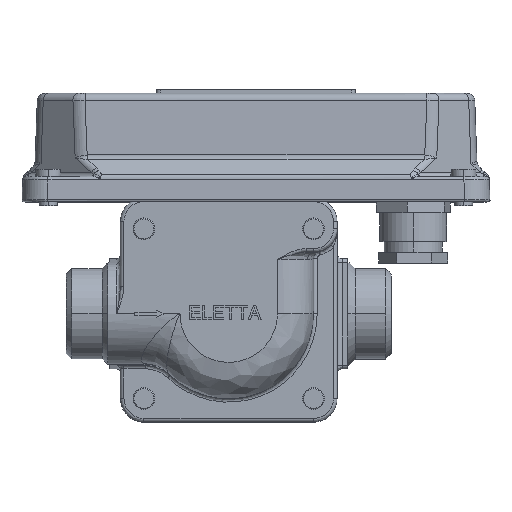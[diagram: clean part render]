
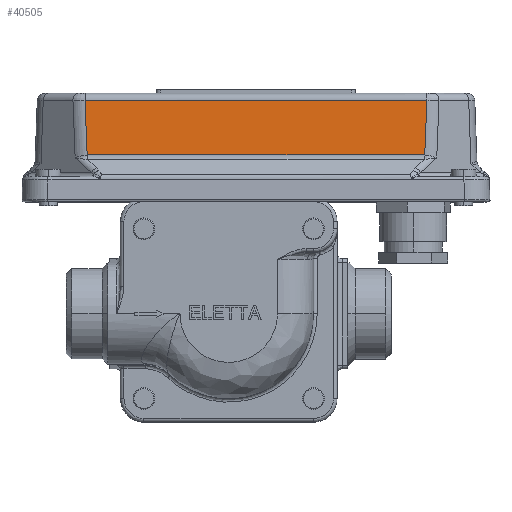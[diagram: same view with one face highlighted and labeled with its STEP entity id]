
A CAD part, top view. The second image highlights one B-rep face of the part: STEP entity #40505.
In plain terms, the highlighted planar face has unit normal (-0.001, 0.035, 0.999) as drawn and (0, 0.035, -0.999) by its records, which use the part's own axes.
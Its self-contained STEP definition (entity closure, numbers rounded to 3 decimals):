
#952 = VERTEX_POINT ( 'NONE', #22584 ) ;
#2907 = CARTESIAN_POINT ( 'NONE',  ( 54.903, 61.07, -26.145 ) ) ;
#4434 = FACE_OUTER_BOUND ( 'NONE', #19513, .T. ) ;
#5070 = CARTESIAN_POINT ( 'NONE',  ( -71.974, 61.07, -26.145 ) ) ;
#5335 = ORIENTED_EDGE ( 'NONE', *, *, #50533, .F. ) ;
#5585 = VECTOR ( 'NONE', #43716, 1000. ) ;
#6045 = ORIENTED_EDGE ( 'NONE', *, *, #50983, .F. ) ;
#8606 = VECTOR ( 'NONE', #28408, 1000. ) ;
#9885 = ORIENTED_EDGE ( 'NONE', *, *, #35016, .F. ) ;
#11059 = AXIS2_PLACEMENT_3D ( 'NONE', #41738, #37689, #54535 ) ;
#11079 = CARTESIAN_POINT ( 'NONE',  ( 54.316, 45.94, -26.673 ) ) ;
#11891 = CARTESIAN_POINT ( 'NONE',  ( 54.316, 45.94, -26.673 ) ) ;
#12561 = CARTESIAN_POINT ( 'NONE',  ( -39.029, 45.942, -26.673 ) ) ;
#13503 = CARTESIAN_POINT ( 'NONE',  ( 54.17, 45.942, -26.673 ) ) ;
#13794 = VERTEX_POINT ( 'NONE', #29061 ) ;
#14524 = EDGE_CURVE ( 'NONE', #13794, #952, #37358, .T. ) ;
#16159 = VECTOR ( 'NONE', #16893, 1000. ) ;
#16580 = PLANE ( 'NONE',  #11059 ) ;
#16893 = DIRECTION ( 'NONE',  ( 1., 0.017, 0.001 ) ) ;
#18292 = ORIENTED_EDGE ( 'NONE', *, *, #20633, .F. ) ;
#19513 = EDGE_LOOP ( 'NONE', ( #37597, #42930, #18292, #6045, #5335, #9885 ) ) ;
#19641 = VECTOR ( 'NONE', #32664, 1000. ) ;
#20633 = EDGE_CURVE ( 'NONE', #50248, #13794, #26430, .T. ) ;
#22584 = CARTESIAN_POINT ( 'NONE',  ( -39.029, 45.942, -26.673 ) ) ;
#26430 = LINE ( 'NONE', #26769, #34990 ) ;
#26769 = CARTESIAN_POINT ( 'NONE',  ( -39.777, 61.459, -26.131 ) ) ;
#27994 = VERTEX_POINT ( 'NONE', #11079 ) ;
#28283 = LINE ( 'NONE', #39496, #5585 ) ;
#28408 = DIRECTION ( 'NONE',  ( 1., 0., 0. ) ) ;
#29061 = CARTESIAN_POINT ( 'NONE',  ( -39.175, 45.94, -26.673 ) ) ;
#29677 = VECTOR ( 'NONE', #43296, 1000. ) ;
#30863 = LINE ( 'NONE', #11891, #19641 ) ;
#31195 = LINE ( 'NONE', #53554, #8606 ) ;
#32664 = DIRECTION ( 'NONE',  ( 1., -0.017, -0.001 ) ) ;
#33168 = VERTEX_POINT ( 'NONE', #2907 ) ;
#34990 = VECTOR ( 'NONE', #43542, 1000. ) ;
#35016 = EDGE_CURVE ( 'NONE', #49559, #27994, #30863, .T. ) ;
#36159 = EDGE_CURVE ( 'NONE', #952, #49559, #31195, .T. ) ;
#37358 = LINE ( 'NONE', #12561, #16159 ) ;
#37597 = ORIENTED_EDGE ( 'NONE', *, *, #36159, .F. ) ;
#37689 = DIRECTION ( 'NONE',  ( 0., -0.035, 0.999 ) ) ;
#39496 = CARTESIAN_POINT ( 'NONE',  ( 54.316, 45.94, -26.673 ) ) ;
#40505 = ADVANCED_FACE ( 'NONE', ( #4434 ), #16580, .F. ) ;
#41738 = CARTESIAN_POINT ( 'NONE',  ( -151.519, 55.221, -26.349 ) ) ;
#42930 = ORIENTED_EDGE ( 'NONE', *, *, #14524, .F. ) ;
#43296 = DIRECTION ( 'NONE',  ( -1., 0., 0. ) ) ;
#43542 = DIRECTION ( 'NONE',  ( 0.039, -0.999, -0.035 ) ) ;
#43716 = DIRECTION ( 'NONE',  ( 0.039, 0.999, 0.035 ) ) ;
#49559 = VERTEX_POINT ( 'NONE', #13503 ) ;
#50248 = VERTEX_POINT ( 'NONE', #53246 ) ;
#50533 = EDGE_CURVE ( 'NONE', #27994, #33168, #28283, .T. ) ;
#50983 = EDGE_CURVE ( 'NONE', #33168, #50248, #52533, .T. ) ;
#52533 = LINE ( 'NONE', #5070, #29677 ) ;
#53246 = CARTESIAN_POINT ( 'NONE',  ( -39.762, 61.07, -26.145 ) ) ;
#53554 = CARTESIAN_POINT ( 'NONE',  ( -151.519, 45.942, -26.673 ) ) ;
#54535 = DIRECTION ( 'NONE',  ( 0., -0.999, -0.035 ) ) ;
